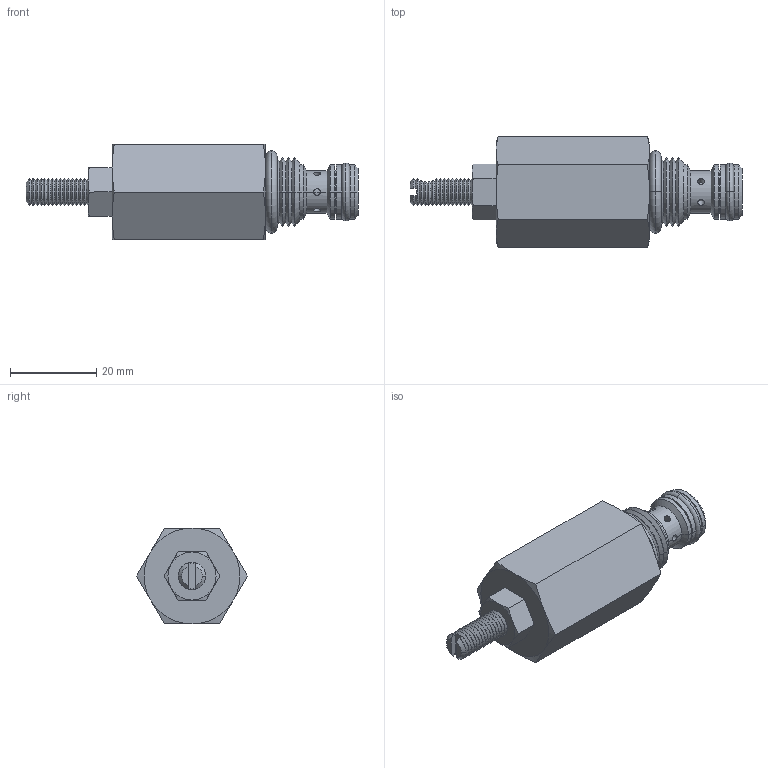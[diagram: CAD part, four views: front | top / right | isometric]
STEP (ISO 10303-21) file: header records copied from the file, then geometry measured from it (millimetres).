
FILE_DESCRIPTION((''),'2;1');
FILE_NAME('U:\Solid model CD\Solid model full\Mechanical\STEP\MAFCA00-3D Full.stp','2008-07-29T09:46:47',('Dan'),(''),'Autodesk Inventor 9','Autodesk Inventor 9','');
FILE_SCHEMA(('AUTOMOTIVE_DESIGN { 1 0 10303 214 1 1 1 1 }'));
Length unit declared in the file: inch
Products named in the file (5): MAFCA00-3D Full; MAFCA00-3D Full1; MAFCA00-3D Full2; MAFCA00-3D Full3; MAFCA00-3D Full4
Assembly tree (4 placements, depth 2):
  MAFCA00-3D Full
    MAFCA00-3D Full1
    MAFCA00-3D Full2
    MAFCA00-3D Full3
    MAFCA00-3D Full4
Bounding box: 76.9 x 25.66 x 22.23 mm (x, y, z)
Volume: 18992.6 mm3; surface area: 6216.2 mm2
Topology: 4 solids, 4 shells, 209 faces, 475 edges, 281 vertices
Faces by surface type: cone 114, cylinder 50, plane 29, bspline 8, torus 8
Entity records: 6650 total; most frequent: CARTESIAN_POINT 1988, DIRECTION 988, ORIENTED_EDGE 946, EDGE_CURVE 473, AXIS2_PLACEMENT_3D 421, VERTEX_POINT 281, EDGE_LOOP 224, CIRCLE 211
